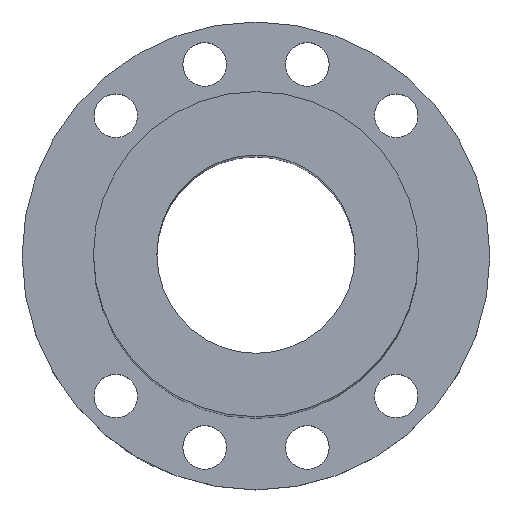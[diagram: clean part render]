
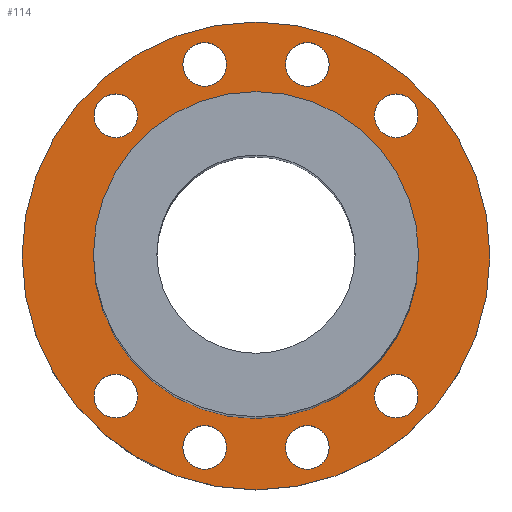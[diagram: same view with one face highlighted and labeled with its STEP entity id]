
A CAD part, top view. The second image highlights one B-rep face of the part: STEP entity #114.
In plain terms, the highlighted planar face has unit normal (0, 0, 1).
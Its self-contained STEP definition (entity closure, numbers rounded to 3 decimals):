
#99=PLANE('',#401);
#114=ADVANCED_FACE('',(#169,#170,#171,#172,#173,#174,#175,#176,#177,#178),
#99,.T.);
#169=FACE_BOUND('',#221,.T.);
#170=FACE_BOUND('',#222,.T.);
#171=FACE_BOUND('',#223,.T.);
#172=FACE_BOUND('',#224,.T.);
#173=FACE_BOUND('',#225,.T.);
#174=FACE_BOUND('',#226,.T.);
#175=FACE_BOUND('',#227,.T.);
#176=FACE_BOUND('',#228,.T.);
#177=FACE_BOUND('',#229,.T.);
#178=FACE_BOUND('',#230,.T.);
#221=EDGE_LOOP('',(#273));
#222=EDGE_LOOP('',(#274));
#223=EDGE_LOOP('',(#275));
#224=EDGE_LOOP('',(#276));
#225=EDGE_LOOP('',(#277));
#226=EDGE_LOOP('',(#278));
#227=EDGE_LOOP('',(#279));
#228=EDGE_LOOP('',(#280));
#229=EDGE_LOOP('',(#281));
#230=EDGE_LOOP('',(#282));
#273=ORIENTED_EDGE('',*,*,#316,.T.);
#274=ORIENTED_EDGE('',*,*,#337,.F.);
#275=ORIENTED_EDGE('',*,*,#336,.T.);
#276=ORIENTED_EDGE('',*,*,#335,.F.);
#277=ORIENTED_EDGE('',*,*,#334,.F.);
#278=ORIENTED_EDGE('',*,*,#333,.T.);
#279=ORIENTED_EDGE('',*,*,#318,.T.);
#280=ORIENTED_EDGE('',*,*,#332,.F.);
#281=ORIENTED_EDGE('',*,*,#331,.T.);
#282=ORIENTED_EDGE('',*,*,#338,.T.);
#290=VERTEX_POINT('',#495);
#292=VERTEX_POINT('',#557);
#305=VERTEX_POINT('',#644);
#306=VERTEX_POINT('',#647);
#307=VERTEX_POINT('',#650);
#308=VERTEX_POINT('',#653);
#309=VERTEX_POINT('',#656);
#310=VERTEX_POINT('',#659);
#311=VERTEX_POINT('',#662);
#312=VERTEX_POINT('',#665);
#316=EDGE_CURVE('',#290,#290,#342,.T.);
#318=EDGE_CURVE('',#292,#292,#343,.T.);
#331=EDGE_CURVE('',#305,#305,#355,.T.);
#332=EDGE_CURVE('',#306,#306,#356,.T.);
#333=EDGE_CURVE('',#307,#307,#357,.T.);
#334=EDGE_CURVE('',#308,#308,#358,.T.);
#335=EDGE_CURVE('',#309,#309,#359,.T.);
#336=EDGE_CURVE('',#310,#310,#360,.T.);
#337=EDGE_CURVE('',#311,#311,#361,.T.);
#338=EDGE_CURVE('',#312,#312,#362,.T.);
#342=CIRCLE('',#367,59.);
#343=CIRCLE('',#369,41.);
#355=CIRCLE('',#385,5.5);
#356=CIRCLE('',#387,5.5);
#357=CIRCLE('',#389,5.5);
#358=CIRCLE('',#391,5.5);
#359=CIRCLE('',#393,5.5);
#360=CIRCLE('',#395,5.5);
#361=CIRCLE('',#397,5.5);
#362=CIRCLE('',#399,5.5);
#367=AXIS2_PLACEMENT_3D('',#494,#411,#412);
#369=AXIS2_PLACEMENT_3D('',#556,#415,#416);
#385=AXIS2_PLACEMENT_3D('',#643,#447,#448);
#387=AXIS2_PLACEMENT_3D('',#646,#451,#452);
#389=AXIS2_PLACEMENT_3D('',#649,#455,#456);
#391=AXIS2_PLACEMENT_3D('',#652,#459,#460);
#393=AXIS2_PLACEMENT_3D('',#655,#463,#464);
#395=AXIS2_PLACEMENT_3D('',#658,#467,#468);
#397=AXIS2_PLACEMENT_3D('',#661,#471,#472);
#399=AXIS2_PLACEMENT_3D('',#664,#475,#476);
#401=AXIS2_PLACEMENT_3D('',#667,#479,#480);
#411=DIRECTION('',(0.,0.,1.));
#412=DIRECTION('',(1.,0.,0.));
#415=DIRECTION('',(0.,0.,-1.));
#416=DIRECTION('',(1.,0.,0.));
#447=DIRECTION('',(0.,0.,-1.));
#448=DIRECTION('',(-1.,0.,0.));
#451=DIRECTION('',(0.,0.,1.));
#452=DIRECTION('',(1.,0.,0.));
#455=DIRECTION('',(0.,0.,-1.));
#456=DIRECTION('',(-1.,0.,0.));
#459=DIRECTION('',(0.,0.,1.));
#460=DIRECTION('',(-1.,0.,0.));
#463=DIRECTION('',(0.,0.,1.));
#464=DIRECTION('',(1.,0.,0.));
#467=DIRECTION('',(0.,0.,-1.));
#468=DIRECTION('',(1.,0.,0.));
#471=DIRECTION('',(0.,0.,1.));
#472=DIRECTION('',(-1.,0.,0.));
#475=DIRECTION('',(0.,0.,-1.));
#476=DIRECTION('',(1.,0.,0.));
#479=DIRECTION('',(0.,0.,1.));
#480=DIRECTION('',(1.,0.,0.));
#494=CARTESIAN_POINT('',(0.,0.,16.));
#495=CARTESIAN_POINT('',(59.,0.,16.));
#556=CARTESIAN_POINT('',(0.,0.,16.));
#557=CARTESIAN_POINT('',(41.,0.,16.));
#643=CARTESIAN_POINT('',(12.941,48.296,16.));
#644=CARTESIAN_POINT('',(7.441,48.296,16.));
#646=CARTESIAN_POINT('',(-12.941,48.296,16.));
#647=CARTESIAN_POINT('',(-7.441,48.296,16.));
#649=CARTESIAN_POINT('',(35.355,35.355,16.));
#650=CARTESIAN_POINT('',(29.855,35.355,16.));
#652=CARTESIAN_POINT('',(35.355,-35.355,16.));
#653=CARTESIAN_POINT('',(29.855,-35.355,16.));
#655=CARTESIAN_POINT('',(-35.355,35.355,16.));
#656=CARTESIAN_POINT('',(-29.855,35.355,16.));
#658=CARTESIAN_POINT('',(-35.355,-35.355,16.));
#659=CARTESIAN_POINT('',(-29.855,-35.355,16.));
#661=CARTESIAN_POINT('',(12.941,-48.296,16.));
#662=CARTESIAN_POINT('',(7.441,-48.296,16.));
#664=CARTESIAN_POINT('',(-12.941,-48.296,16.));
#665=CARTESIAN_POINT('',(-7.441,-48.296,16.));
#667=CARTESIAN_POINT('',(6.47,-24.148,16.));
